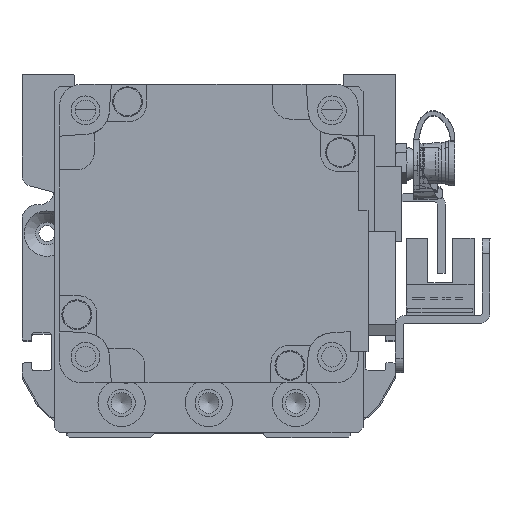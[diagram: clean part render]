
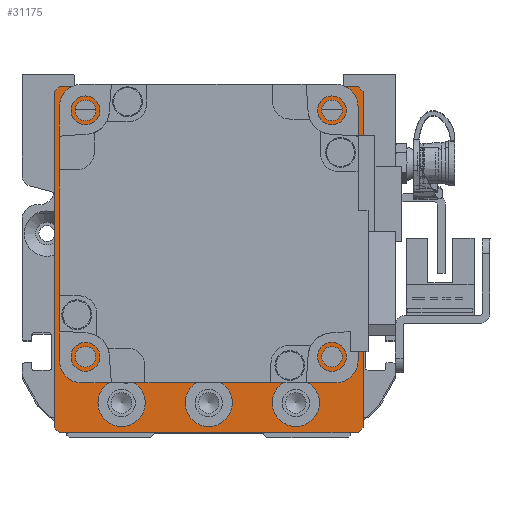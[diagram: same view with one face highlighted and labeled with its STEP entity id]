
A CAD part, left-side view. The second image highlights one B-rep face of the part: STEP entity #31175.
In plain terms, the highlighted planar face has unit normal (-1, 0, 0) as drawn and (0, 0, 1) by its records, which use the part's own axes.
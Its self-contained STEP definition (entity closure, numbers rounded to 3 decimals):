
#1122=FACE_BOUND('',#6186,.T.);
#1123=FACE_BOUND('',#6187,.T.);
#1124=FACE_BOUND('',#6188,.T.);
#1125=FACE_BOUND('',#6189,.T.);
#1126=FACE_BOUND('',#6190,.T.);
#1127=FACE_BOUND('',#6191,.T.);
#1128=FACE_BOUND('',#6192,.T.);
#1129=FACE_BOUND('',#6193,.T.);
#1880=PLANE('',#34949);
#4074=FACE_OUTER_BOUND('',#6185,.T.);
#6185=EDGE_LOOP('',(#27769,#27770,#27771,#27772,#27773,#27774,#27775,#27776));
#6186=EDGE_LOOP('',(#27777));
#6187=EDGE_LOOP('',(#27778));
#6188=EDGE_LOOP('',(#27779));
#6189=EDGE_LOOP('',(#27780));
#6190=EDGE_LOOP('',(#27781));
#6191=EDGE_LOOP('',(#27782));
#6192=EDGE_LOOP('',(#27783));
#6193=EDGE_LOOP('',(#27784));
#8595=LINE('',#53486,#11043);
#8598=LINE('',#53491,#11046);
#8600=LINE('',#53495,#11048);
#8602=LINE('',#53499,#11050);
#8604=LINE('',#53504,#11052);
#8606=LINE('',#53507,#11054);
#8607=LINE('',#53509,#11055);
#8608=LINE('',#53510,#11056);
#11043=VECTOR('',#43398,10.);
#11046=VECTOR('',#43403,10.);
#11048=VECTOR('',#43407,10.);
#11050=VECTOR('',#43411,10.);
#11052=VECTOR('',#43415,10.);
#11054=VECTOR('',#43419,10.);
#11055=VECTOR('',#43420,10.);
#11056=VECTOR('',#43421,10.);
#13036=CIRCLE('',#34950,25.);
#13037=CIRCLE('',#34951,2.067);
#13038=CIRCLE('',#34952,2.067);
#13039=CIRCLE('',#34953,2.067);
#13040=CIRCLE('',#34954,2.067);
#13041=CIRCLE('',#34955,4.75);
#13042=CIRCLE('',#34956,4.75);
#13043=CIRCLE('',#34957,4.75);
#15678=VERTEX_POINT('',#53483);
#15679=VERTEX_POINT('',#53485);
#15680=VERTEX_POINT('',#53489);
#15681=VERTEX_POINT('',#53493);
#15682=VERTEX_POINT('',#53497);
#15683=VERTEX_POINT('',#53501);
#15684=VERTEX_POINT('',#53503);
#15685=VERTEX_POINT('',#53508);
#15686=VERTEX_POINT('',#53511);
#15687=VERTEX_POINT('',#53513);
#15688=VERTEX_POINT('',#53515);
#15689=VERTEX_POINT('',#53517);
#15690=VERTEX_POINT('',#53519);
#15691=VERTEX_POINT('',#53521);
#15692=VERTEX_POINT('',#53523);
#15693=VERTEX_POINT('',#53525);
#19804=EDGE_CURVE('',#15678,#15679,#8595,.T.);
#19807=EDGE_CURVE('',#15678,#15680,#8598,.T.);
#19809=EDGE_CURVE('',#15681,#15680,#8600,.T.);
#19811=EDGE_CURVE('',#15681,#15682,#8602,.T.);
#19813=EDGE_CURVE('',#15683,#15684,#8604,.T.);
#19815=EDGE_CURVE('',#15683,#15679,#8606,.T.);
#19816=EDGE_CURVE('',#15685,#15682,#8607,.T.);
#19817=EDGE_CURVE('',#15685,#15684,#8608,.T.);
#19818=EDGE_CURVE('',#15686,#15686,#13036,.T.);
#19819=EDGE_CURVE('',#15687,#15687,#13037,.T.);
#19820=EDGE_CURVE('',#15688,#15688,#13038,.T.);
#19821=EDGE_CURVE('',#15689,#15689,#13039,.T.);
#19822=EDGE_CURVE('',#15690,#15690,#13040,.T.);
#19823=EDGE_CURVE('',#15691,#15691,#13041,.T.);
#19824=EDGE_CURVE('',#15692,#15692,#13042,.T.);
#19825=EDGE_CURVE('',#15693,#15693,#13043,.T.);
#27769=ORIENTED_EDGE('',*,*,#19813,.F.);
#27770=ORIENTED_EDGE('',*,*,#19815,.T.);
#27771=ORIENTED_EDGE('',*,*,#19804,.F.);
#27772=ORIENTED_EDGE('',*,*,#19807,.T.);
#27773=ORIENTED_EDGE('',*,*,#19809,.F.);
#27774=ORIENTED_EDGE('',*,*,#19811,.T.);
#27775=ORIENTED_EDGE('',*,*,#19816,.F.);
#27776=ORIENTED_EDGE('',*,*,#19817,.T.);
#27777=ORIENTED_EDGE('',*,*,#19818,.T.);
#27778=ORIENTED_EDGE('',*,*,#19819,.T.);
#27779=ORIENTED_EDGE('',*,*,#19820,.T.);
#27780=ORIENTED_EDGE('',*,*,#19821,.T.);
#27781=ORIENTED_EDGE('',*,*,#19822,.T.);
#27782=ORIENTED_EDGE('',*,*,#19823,.T.);
#27783=ORIENTED_EDGE('',*,*,#19824,.T.);
#27784=ORIENTED_EDGE('',*,*,#19825,.T.);
#31175=ADVANCED_FACE('',(#4074,#1122,#1123,#1124,#1125,#1126,#1127,#1128,
#1129),#1880,.T.);
#34949=AXIS2_PLACEMENT_3D('',#53506,#43417,#43418);
#34950=AXIS2_PLACEMENT_3D('',#53512,#43422,#43423);
#34951=AXIS2_PLACEMENT_3D('',#53514,#43424,#43425);
#34952=AXIS2_PLACEMENT_3D('',#53516,#43426,#43427);
#34953=AXIS2_PLACEMENT_3D('',#53518,#43428,#43429);
#34954=AXIS2_PLACEMENT_3D('',#53520,#43430,#43431);
#34955=AXIS2_PLACEMENT_3D('',#53522,#43432,#43433);
#34956=AXIS2_PLACEMENT_3D('',#53524,#43434,#43435);
#34957=AXIS2_PLACEMENT_3D('',#53526,#43436,#43437);
#43398=DIRECTION('',(-0.707,-0.707,0.));
#43403=DIRECTION('',(0.,1.,0.));
#43407=DIRECTION('',(0.707,-0.707,0.));
#43411=DIRECTION('',(-1.,0.,0.));
#43415=DIRECTION('',(-0.707,0.707,0.));
#43417=DIRECTION('center_axis',(0.,0.,1.));
#43418=DIRECTION('ref_axis',(1.,0.,0.));
#43419=DIRECTION('',(1.,0.,0.));
#43420=DIRECTION('',(0.707,0.707,0.));
#43421=DIRECTION('',(0.,-1.,0.));
#43422=DIRECTION('center_axis',(0.,0.,-1.));
#43423=DIRECTION('ref_axis',(1.,0.,0.));
#43424=DIRECTION('center_axis',(0.,0.,-1.));
#43425=DIRECTION('ref_axis',(1.,0.,0.));
#43426=DIRECTION('center_axis',(0.,0.,-1.));
#43427=DIRECTION('ref_axis',(1.,0.,0.));
#43428=DIRECTION('center_axis',(0.,0.,-1.));
#43429=DIRECTION('ref_axis',(1.,0.,0.));
#43430=DIRECTION('center_axis',(0.,0.,-1.));
#43431=DIRECTION('ref_axis',(1.,0.,0.));
#43432=DIRECTION('center_axis',(0.,0.,-1.));
#43433=DIRECTION('ref_axis',(1.,0.,0.));
#43434=DIRECTION('center_axis',(0.,0.,-1.));
#43435=DIRECTION('ref_axis',(1.,0.,0.));
#43436=DIRECTION('center_axis',(0.,0.,-1.));
#43437=DIRECTION('ref_axis',(1.,0.,0.));
#53483=CARTESIAN_POINT('',(31.,-33.75,59.));
#53485=CARTESIAN_POINT('',(30.,-34.75,59.));
#53486=CARTESIAN_POINT('',(31.438,-33.313,59.));
#53489=CARTESIAN_POINT('',(31.,33.75,59.));
#53491=CARTESIAN_POINT('',(31.,-34.75,59.));
#53493=CARTESIAN_POINT('',(30.,34.75,59.));
#53495=CARTESIAN_POINT('',(31.438,33.313,59.));
#53497=CARTESIAN_POINT('',(-30.,34.75,59.));
#53499=CARTESIAN_POINT('',(31.,34.75,59.));
#53501=CARTESIAN_POINT('',(-30.,-34.75,59.));
#53503=CARTESIAN_POINT('',(-31.,-33.75,59.));
#53504=CARTESIAN_POINT('',(-31.438,-33.313,59.));
#53506=CARTESIAN_POINT('Origin',(0.,0.,
59.));
#53507=CARTESIAN_POINT('',(-31.,-34.75,59.));
#53508=CARTESIAN_POINT('',(-31.,33.75,59.));
#53509=CARTESIAN_POINT('',(-31.438,33.313,59.));
#53510=CARTESIAN_POINT('',(-31.,34.75,59.));
#53511=CARTESIAN_POINT('',(-25.,5.25,59.));
#53512=CARTESIAN_POINT('Origin',(0.,5.25,59.));
#53513=CARTESIAN_POINT('',(22.682,-19.499,59.));
#53514=CARTESIAN_POINT('Origin',(24.749,-19.499,59.));
#53515=CARTESIAN_POINT('',(22.682,29.999,59.));
#53516=CARTESIAN_POINT('Origin',(24.749,29.999,59.));
#53517=CARTESIAN_POINT('',(-26.816,29.999,59.));
#53518=CARTESIAN_POINT('Origin',(-24.749,29.999,59.));
#53519=CARTESIAN_POINT('',(-26.816,-19.499,59.));
#53520=CARTESIAN_POINT('Origin',(-24.749,-19.499,59.));
#53521=CARTESIAN_POINT('',(12.75,-28.75,59.));
#53522=CARTESIAN_POINT('Origin',(17.5,-28.75,59.));
#53523=CARTESIAN_POINT('',(-4.75,-28.75,59.));
#53524=CARTESIAN_POINT('Origin',(0.,-28.75,59.));
#53525=CARTESIAN_POINT('',(-22.25,-28.75,59.));
#53526=CARTESIAN_POINT('Origin',(-17.5,-28.75,59.));
